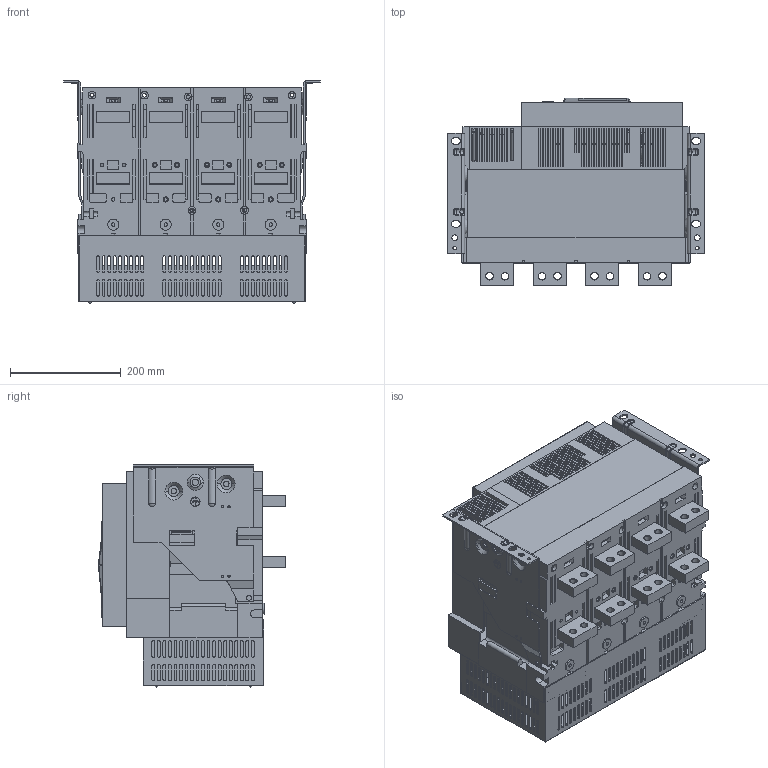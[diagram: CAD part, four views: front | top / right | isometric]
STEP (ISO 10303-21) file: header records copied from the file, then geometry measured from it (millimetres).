
FILE_DESCRIPTION((''),'2;1');
FILE_NAME('NA8G-2500-F-2500-4P_ASM','2020-05-12T16:42:04',('lcc'),(''),'CREO PARAMETRIC BY PTC INC, 2018020','CREO PARAMETRIC BY PTC INC, 2018020','');
FILE_SCHEMA(('CONFIG_CONTROL_DESIGN','SHAPE_APPEARANCE_LAYERS_GROUPS'));
Products named in the file (18): 5ZTD-024-113V; 8ZTD-580-355; 8043A0726101; 5ZTD-558-458-4_ASM; 5ZTD-055-030; 8ZTD-580-004; 8ZTD-300-285-2; GBT12618-3X7; 5ZTD-300-089-2_ASM; 8-060-MIANBAN-11; 8-253-034; 8-253-289; 8-253-290; 8-253-309; 8-060-140---4; 8ZTD_060_016-201801; 8ZTD_060_017-201801; NA8G-2500-F-2500-4P_ASM
Assembly tree (26 placements, depth 3):
  NA8G-2500-F-2500-4P_ASM
    5ZTD-024-113V
    5ZTD-558-458-4_ASM  x4
      8ZTD-580-355
      8043A0726101
    5ZTD-055-030
    8ZTD-580-004  x4
    5ZTD-300-089-2_ASM
      8ZTD-300-285-2
      GBT12618-3X7  x4
    8-060-MIANBAN-11
    8-253-034
    8-253-289
    8-253-290
    8-253-309
    8-060-140---4
    8ZTD_060_016-201801
    8ZTD_060_017-201801
Bounding box: 465 x 339 x 403 mm (x, y, z)
Volume: 8885318.8 mm3; surface area: 3078843.5 mm2
Topology: 27 solids, 45 shells, 4346 faces, 12249 edges, 8043 vertices
Faces by surface type: plane 3088, cylinder 1062, cone 71, bspline 69, sphere 31, torus 25
Entity records: 156123 total; most frequent: CARTESIAN_POINT 26963, ORIENTED_EDGE 22539, DIRECTION 21066, EDGE_CURVE 11303, VECTOR 8954, LINE 8954, PRESENTATION_STYLE_ASSIGNMENT 7438, VERTEX_POINT 7434
